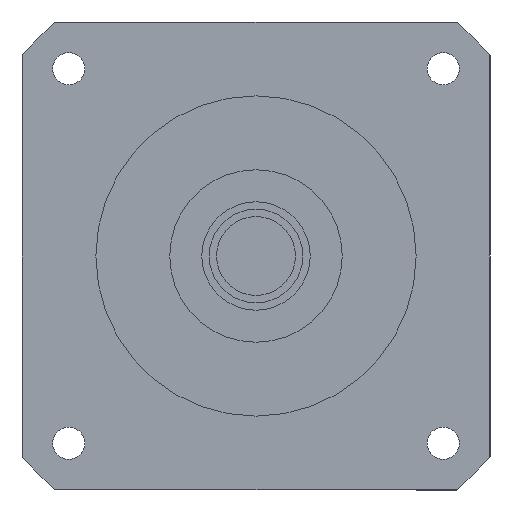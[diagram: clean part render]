
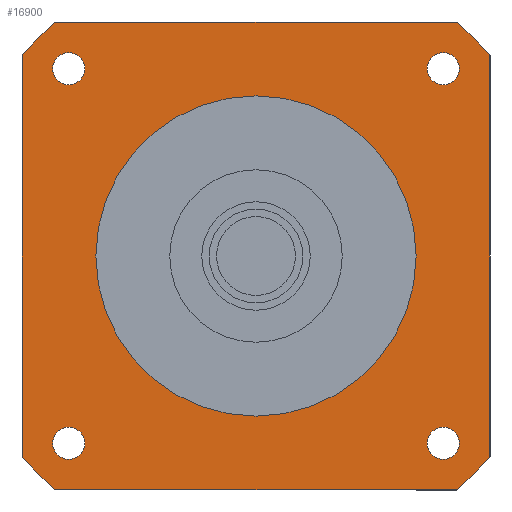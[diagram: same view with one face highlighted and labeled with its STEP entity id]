
A CAD part, left-side view. The second image highlights one B-rep face of the part: STEP entity #16900.
In plain terms, the highlighted planar face has unit normal (-1, 0, 0) as drawn and (0, 0, -1) by its records, which use the part's own axes.
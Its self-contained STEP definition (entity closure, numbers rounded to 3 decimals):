
#13100=CARTESIAN_POINT('',(95.,-81.24,-84.7));
#13110=VERTEX_POINT('',#13100);
#13160=CARTESIAN_POINT('',(0.,0.,
-84.7));
#13170=DIRECTION('',(0.,0.,-1.));
#13180=DIRECTION('',(1.,0.,0.));
#13190=AXIS2_PLACEMENT_3D('',#13160,#13170,#13180);
#13200=CIRCLE('',#13190,125.);
#13210=CARTESIAN_POINT('',(81.24,-95.,-84.7));
#13220=VERTEX_POINT('',#13210);
#13230=EDGE_CURVE('',#13110,#13220,#13200,.T.);
#15330=CARTESIAN_POINT('',(69.514,-76.014,-84.7));
#15340=VERTEX_POINT('',#15330);
#15370=CARTESIAN_POINT('',(76.014,-76.014,-84.7));
#15380=DIRECTION('',(0.,0.,-1.));
#15390=DIRECTION('',(1.,0.,0.));
#15400=AXIS2_PLACEMENT_3D('',#15370,#15380,#15390);
#15410=CIRCLE('',#15400,6.5);
#15420=CARTESIAN_POINT('',(82.514,-76.014,-84.7));
#15430=VERTEX_POINT('',#15420);
#15440=EDGE_CURVE('',#15430,#15340,#15410,.T.);
#15560=CARTESIAN_POINT('',(95.,95.,-84.7));
#15570=DIRECTION('',(0.,0.,-1.));
#15580=DIRECTION('',(1.,0.,0.));
#15590=AXIS2_PLACEMENT_3D('',#15560,#15570,#15580);
#15600=PLANE('',#15590);
#15610=CARTESIAN_POINT('',(-76.014,76.014,-84.7));
#15620=DIRECTION('',(0.,0.,-1.));
#15630=DIRECTION('',(-1.,0.,0.));
#15640=AXIS2_PLACEMENT_3D('',#15610,#15620,#15630);
#15650=CIRCLE('',#15640,6.5);
#15660=CARTESIAN_POINT('',(-82.514,76.014,-84.7));
#15670=VERTEX_POINT('',#15660);
#15680=CARTESIAN_POINT('',(-69.514,76.014,-84.7));
#15690=VERTEX_POINT('',#15680);
#15700=EDGE_CURVE('',#15670,#15690,#15650,.T.);
#15710=ORIENTED_EDGE('',*,*,#15700,.F.);
#15720=EDGE_CURVE('',#15690,#15670,#15650,.T.);
#15730=ORIENTED_EDGE('',*,*,#15720,.F.);
#15740=EDGE_LOOP('',(#15730,#15710));
#15750=FACE_BOUND('',#15740,.T.);
#15760=CARTESIAN_POINT('',(76.014,76.014,-84.7));
#15770=DIRECTION('',(0.,0.,-1.));
#15780=DIRECTION('',(0.,1.,0.));
#15790=AXIS2_PLACEMENT_3D('',#15760,#15770,#15780);
#15800=CIRCLE('',#15790,6.5);
#15810=CARTESIAN_POINT('',(76.014,82.514,-84.7));
#15820=VERTEX_POINT('',#15810);
#15830=CARTESIAN_POINT('',(76.014,69.514,-84.7));
#15840=VERTEX_POINT('',#15830);
#15850=EDGE_CURVE('',#15820,#15840,#15800,.T.);
#15860=ORIENTED_EDGE('',*,*,#15850,.F.);
#15870=EDGE_CURVE('',#15840,#15820,#15800,.T.);
#15880=ORIENTED_EDGE('',*,*,#15870,.F.);
#15890=EDGE_LOOP('',(#15880,#15860));
#15900=FACE_BOUND('',#15890,.T.);
#15910=CARTESIAN_POINT('',(0.,0.,
-84.7));
#15920=DIRECTION('',(0.,0.,1.));
#15930=DIRECTION('',(0.,1.,0.));
#15940=AXIS2_PLACEMENT_3D('',#15910,#15920,#15930);
#15950=CIRCLE('',#15940,65.);
#15960=CARTESIAN_POINT('',(-65.,0.,-84.7));
#15970=VERTEX_POINT('',#15960);
#15980=CARTESIAN_POINT('',(65.,0.,-84.7));
#15990=VERTEX_POINT('',#15980);
#16000=EDGE_CURVE('',#15970,#15990,#15950,.T.);
#16010=ORIENTED_EDGE('',*,*,#16000,.T.);
#16020=CARTESIAN_POINT('',(0.,65.,-84.7));
#16030=VERTEX_POINT('',#16020);
#16040=EDGE_CURVE('',#16030,#15970,#15950,.T.);
#16050=ORIENTED_EDGE('',*,*,#16040,.T.);
#16060=EDGE_CURVE('',#15990,#16030,#15950,.T.);
#16070=ORIENTED_EDGE('',*,*,#16060,.T.);
#16080=EDGE_LOOP('',(#16070,#16050,#16010));
#16090=FACE_BOUND('',#16080,.T.);
#16100=ORIENTED_EDGE('',*,*,#15440,.F.);
#16110=EDGE_CURVE('',#15340,#15430,#15410,.T.);
#16120=ORIENTED_EDGE('',*,*,#16110,.F.);
#16130=EDGE_LOOP('',(#16120,#16100));
#16140=FACE_BOUND('',#16130,.T.);
#16150=CARTESIAN_POINT('',(-76.014,-76.014,-84.7));
#16160=DIRECTION('',(0.,0.,-1.));
#16170=DIRECTION('',(0.,-1.,0.));
#16180=AXIS2_PLACEMENT_3D('',#16150,#16160,#16170);
#16190=CIRCLE('',#16180,6.5);
#16200=CARTESIAN_POINT('',(-76.014,-82.514,-84.7));
#16210=VERTEX_POINT('',#16200);
#16220=CARTESIAN_POINT('',(-76.014,-69.514,-84.7));
#16230=VERTEX_POINT('',#16220);
#16240=EDGE_CURVE('',#16210,#16230,#16190,.T.);
#16250=ORIENTED_EDGE('',*,*,#16240,.F.);
#16260=EDGE_CURVE('',#16230,#16210,#16190,.T.);
#16270=ORIENTED_EDGE('',*,*,#16260,.F.);
#16280=EDGE_LOOP('',(#16270,#16250));
#16290=FACE_BOUND('',#16280,.T.);
#16300=CARTESIAN_POINT('',(-95.,95.,-84.7));
#16310=DIRECTION('',(1.,0.,0.));
#16320=VECTOR('',#16310,1000.);
#16330=LINE('',#16300,#16320);
#16340=CARTESIAN_POINT('',(-81.24,95.,-84.7));
#16350=VERTEX_POINT('',#16340);
#16360=CARTESIAN_POINT('',(81.24,95.,-84.7));
#16370=VERTEX_POINT('',#16360);
#16380=EDGE_CURVE('',#16350,#16370,#16330,.T.);
#16390=ORIENTED_EDGE('',*,*,#16380,.T.);
#16400=CARTESIAN_POINT('',(0.,0.,
-84.7));
#16410=DIRECTION('',(0.,0.,-1.));
#16420=DIRECTION('',(1.,0.,0.));
#16430=AXIS2_PLACEMENT_3D('',#16400,#16410,#16420);
#16440=CIRCLE('',#16430,125.);
#16450=CARTESIAN_POINT('',(-95.,81.24,-84.7));
#16460=VERTEX_POINT('',#16450);
#16470=EDGE_CURVE('',#16460,#16350,#16440,.T.);
#16480=ORIENTED_EDGE('',*,*,#16470,.T.);
#16490=CARTESIAN_POINT('',(-95.,-95.,-84.7));
#16500=DIRECTION('',(0.,1.,0.));
#16510=VECTOR('',#16500,1000.);
#16520=LINE('',#16490,#16510);
#16530=CARTESIAN_POINT('',(-95.,-81.24,-84.7));
#16540=VERTEX_POINT('',#16530);
#16550=EDGE_CURVE('',#16540,#16460,#16520,.T.);
#16560=ORIENTED_EDGE('',*,*,#16550,.T.);
#16570=CARTESIAN_POINT('',(0.,0.,
-84.7));
#16580=DIRECTION('',(0.,0.,-1.));
#16590=DIRECTION('',(1.,0.,0.));
#16600=AXIS2_PLACEMENT_3D('',#16570,#16580,#16590);
#16610=CIRCLE('',#16600,125.);
#16620=CARTESIAN_POINT('',(-81.24,-95.,-84.7));
#16630=VERTEX_POINT('',#16620);
#16640=EDGE_CURVE('',#16630,#16540,#16610,.T.);
#16650=ORIENTED_EDGE('',*,*,#16640,.T.);
#16660=CARTESIAN_POINT('',(95.,-95.,-84.7));
#16670=DIRECTION('',(-1.,0.,0.));
#16680=VECTOR('',#16670,1000.);
#16690=LINE('',#16660,#16680);
#16700=EDGE_CURVE('',#13220,#16630,#16690,.T.);
#16710=ORIENTED_EDGE('',*,*,#16700,.T.);
#16720=ORIENTED_EDGE('',*,*,#13230,.T.);
#16730=CARTESIAN_POINT('',(95.,95.,-84.7));
#16740=DIRECTION('',(0.,-1.,0.));
#16750=VECTOR('',#16740,1000.);
#16760=LINE('',#16730,#16750);
#16770=CARTESIAN_POINT('',(95.,81.24,-84.7));
#16780=VERTEX_POINT('',#16770);
#16790=EDGE_CURVE('',#16780,#13110,#16760,.T.);
#16800=ORIENTED_EDGE('',*,*,#16790,.T.);
#16810=CARTESIAN_POINT('',(0.,0.,
-84.7));
#16820=DIRECTION('',(0.,0.,-1.));
#16830=DIRECTION('',(1.,0.,0.));
#16840=AXIS2_PLACEMENT_3D('',#16810,#16820,#16830);
#16850=CIRCLE('',#16840,125.);
#16860=EDGE_CURVE('',#16370,#16780,#16850,.T.);
#16870=ORIENTED_EDGE('',*,*,#16860,.T.);
#16880=EDGE_LOOP('',(#16870,#16800,#16720,#16710,#16650,#16560,#16480,
#16390));
#16890=FACE_OUTER_BOUND('',#16880,.T.);
#16900=ADVANCED_FACE('',(#15750,#15900,#16090,#16140,#16290,#16890),
#15600,.T.);
